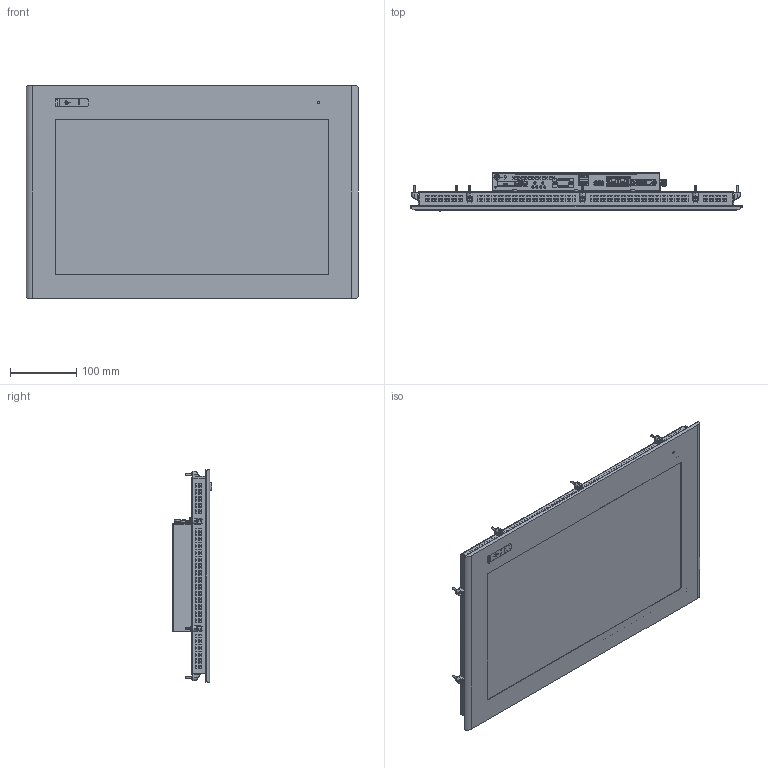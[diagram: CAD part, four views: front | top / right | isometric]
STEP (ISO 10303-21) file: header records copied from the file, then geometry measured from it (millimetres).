
FILE_DESCRIPTION((''),'2;1');
FILE_NAME('C6E22-Panel_185W_RES_SL','2017-03-07T',('manpal'),(''),'PRO/ENGINEER BY PARAMETRIC TECHNOLOGY CORPORATION, 2013410','PRO/ENGINEER BY PARAMETRIC TECHNOLOGY CORPORATION, 2013410','');
FILE_SCHEMA(('AUTOMOTIVE_DESIGN { 1 0 10303 214 1 1 1 1 }'));
Products named in the file (2): C6E22-Panel_185W_RES_SL_
Assembly tree (1 placements, depth 2):
  C6E22-Panel_185W_RES_SL_
    C6E22-Panel_185W_RES_SL_
Bounding box: 500 x 59.04 x 320 mm (x, y, z)
Surface area: 766425.8 mm2 (no closed solid volume)
Topology: 0 solids, 359 shells, 4646 faces, 19906 edges, 15440 vertices
Faces by surface type: plane 3636, cylinder 625, cone 202, bspline 112, torus 42, sphere 27, extrusion 2
Entity records: 228681 total; most frequent: CARTESIAN_POINT 51769, DIRECTION 30797, ORIENTED_EDGE 28436, EDGE_CURVE 19860, VECTOR 15831, LINE 15829, VERTEX_POINT 15440, AXIS2_PLACEMENT_3D 7483
